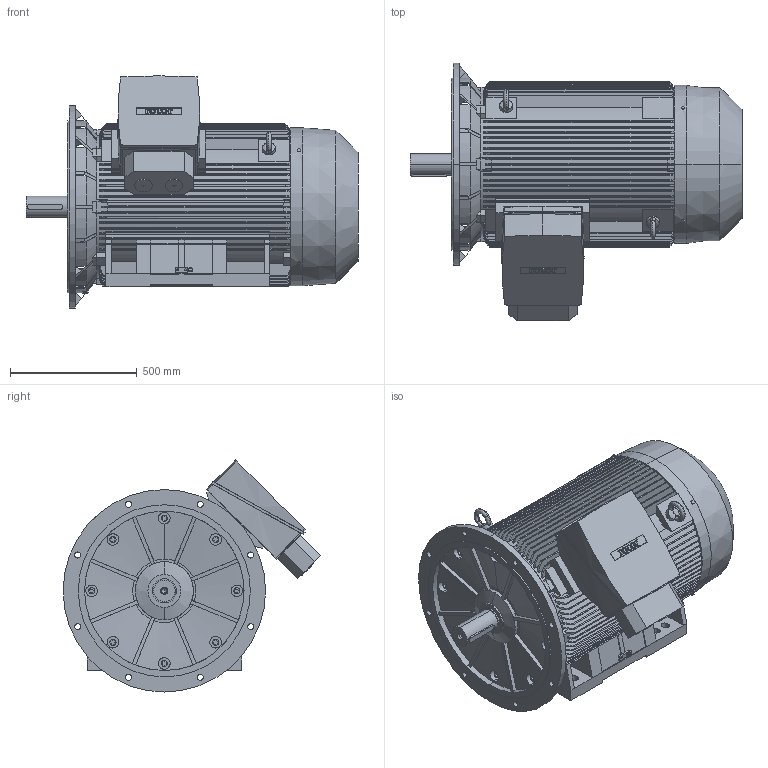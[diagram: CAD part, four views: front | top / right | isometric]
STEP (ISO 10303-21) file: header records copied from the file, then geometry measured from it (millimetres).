
FILE_DESCRIPTION (( 'STEP AP214' ), '1' );
FILE_NAME ('7RN315L04E36 IM2021.STEP', '2018-09-04T13:40:47', ( '' ), ( '' ), 'SwSTEP 2.0', 'SolidWorks 2015', '' );
FILE_SCHEMA (( 'AUTOMOTIVE_DESIGN' ));
Length unit declared in the file: millimetre
Products named in the file (1): 7RN315L04E36 IM2021
Bounding box: 1312 x 1018.72 x 917.25 mm (x, y, z)
Volume: 363488478.2 mm3; surface area: 8301805.7 mm2
Topology: 9 solids, 9 shells, 1415 faces, 3895 edges, 2545 vertices
Faces by surface type: plane 863, cylinder 309, bspline 224, cone 19
Entity records: 69919 total; most frequent: CARTESIAN_POINT 21093, ORIENTED_EDGE 7778, DIRECTION 6094, EDGE_CURVE 3889, VERTEX_POINT 2545, VECTOR 2376, LINE 2376, AXIS2_PLACEMENT_3D 1859
